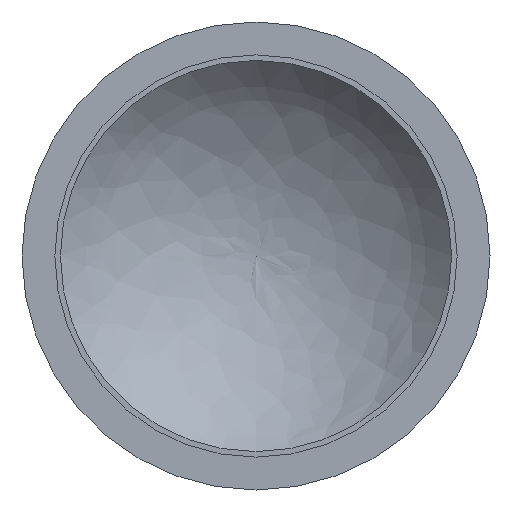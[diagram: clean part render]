
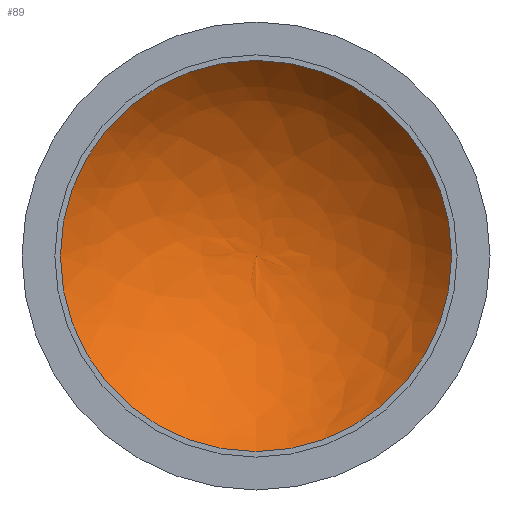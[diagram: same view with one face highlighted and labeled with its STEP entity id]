
A CAD part, front view. The second image highlights one B-rep face of the part: STEP entity #89.
In plain terms, the highlighted free-form (B-spline) face has degree [2, 2] with [3, 9] control points.
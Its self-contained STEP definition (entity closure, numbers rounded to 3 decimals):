
#17=(
BOUNDED_CURVE()
B_SPLINE_CURVE(2,(#175,#176,#177),.UNSPECIFIED.,.F.,.F.)
B_SPLINE_CURVE_WITH_KNOTS((3,3),(-1.542,-0.725),
 .UNSPECIFIED.)
CURVE()
GEOMETRIC_REPRESENTATION_ITEM()
RATIONAL_B_SPLINE_CURVE((1.,0.918,1.))
REPRESENTATION_ITEM('')
);
#18=(
BOUNDED_SURFACE()
B_SPLINE_SURFACE(2,2,((#146,#147,#148,#149,#150,#151,#152,#153,#154),(#155,
#156,#157,#158,#159,#160,#161,#162,#163),(#164,#165,#166,#167,#168,#169,
#170,#171,#172)),.UNSPECIFIED.,.F.,.T.,.F.)
B_SPLINE_SURFACE_WITH_KNOTS((3,3),(3,2,2,2,3),(0.725,1.542),
(-3.142,-1.571,0.,1.571,3.142),
 .UNSPECIFIED.)
GEOMETRIC_REPRESENTATION_ITEM()
RATIONAL_B_SPLINE_SURFACE(((1.,0.707,1.,0.707,1.,
0.707,1.,0.707,1.),(0.918,0.649,
0.918,0.649,0.918,0.649,
0.918,0.649,0.918),(1.,0.707,
1.,0.707,1.,0.707,1.,0.707,1.)))
REPRESENTATION_ITEM('')
SURFACE()
);
#30=FACE_OUTER_BOUND('',#39,.T.);
#39=EDGE_LOOP('',(#74,#75,#76,#77));
#49=CIRCLE('',#101,53.5);
#50=CIRCLE('',#102,53.5);
#56=VERTEX_POINT('',#173);
#57=VERTEX_POINT('',#174);
#58=VERTEX_POINT('',#178);
#64=EDGE_CURVE('',#56,#57,#17,.T.);
#65=EDGE_CURVE('',#58,#57,#49,.T.);
#66=EDGE_CURVE('',#57,#58,#50,.T.);
#74=ORIENTED_EDGE('',*,*,#64,.T.);
#75=ORIENTED_EDGE('',*,*,#65,.F.);
#76=ORIENTED_EDGE('',*,*,#66,.F.);
#77=ORIENTED_EDGE('',*,*,#64,.F.);
#89=ADVANCED_FACE('',(#30),#18,.T.);
#101=AXIS2_PLACEMENT_3D('',#179,#122,#123);
#102=AXIS2_PLACEMENT_3D('',#180,#124,#125);
#122=DIRECTION('center_axis',(0.,1.,0.));
#123=DIRECTION('ref_axis',(1.,0.,0.));
#124=DIRECTION('center_axis',(0.,1.,0.));
#125=DIRECTION('ref_axis',(1.,0.,0.));
#146=CARTESIAN_POINT('Ctrl Pts',(0.,63.,-53.5));
#147=CARTESIAN_POINT('Ctrl Pts',(-53.5,63.,-53.5));
#148=CARTESIAN_POINT('Ctrl Pts',(-53.5,63.,0.));
#149=CARTESIAN_POINT('Ctrl Pts',(-53.5,63.,53.5));
#150=CARTESIAN_POINT('Ctrl Pts',(0.,63.,53.5));
#151=CARTESIAN_POINT('Ctrl Pts',(53.5,63.,53.5));
#152=CARTESIAN_POINT('Ctrl Pts',(53.5,63.,0.));
#153=CARTESIAN_POINT('Ctrl Pts',(53.5,63.,-53.5));
#154=CARTESIAN_POINT('Ctrl Pts',(0.,63.,-53.5));
#155=CARTESIAN_POINT('Ctrl Pts',(0.,87.085,-32.164));
#156=CARTESIAN_POINT('Ctrl Pts',(-32.164,87.085,-32.164));
#157=CARTESIAN_POINT('Ctrl Pts',(-32.164,87.085,0.));
#158=CARTESIAN_POINT('Ctrl Pts',(-32.164,87.085,32.164));
#159=CARTESIAN_POINT('Ctrl Pts',(0.,87.085,32.164));
#160=CARTESIAN_POINT('Ctrl Pts',(32.164,87.085,32.164));
#161=CARTESIAN_POINT('Ctrl Pts',(32.164,87.085,0.));
#162=CARTESIAN_POINT('Ctrl Pts',(32.164,87.085,-32.164));
#163=CARTESIAN_POINT('Ctrl Pts',(0.,87.085,-32.164));
#164=CARTESIAN_POINT('Ctrl Pts',(0.,88.,0.));
#165=CARTESIAN_POINT('Ctrl Pts',(0.,88.,0.));
#166=CARTESIAN_POINT('Ctrl Pts',(0.,88.,0.));
#167=CARTESIAN_POINT('Ctrl Pts',(0.,88.,0.));
#168=CARTESIAN_POINT('Ctrl Pts',(0.,88.,0.));
#169=CARTESIAN_POINT('Ctrl Pts',(0.,88.,0.));
#170=CARTESIAN_POINT('Ctrl Pts',(0.,88.,0.));
#171=CARTESIAN_POINT('Ctrl Pts',(0.,88.,0.));
#172=CARTESIAN_POINT('Ctrl Pts',(0.,88.,0.));
#173=CARTESIAN_POINT('',(0.,88.,0.));
#174=CARTESIAN_POINT('',(0.,63.,-53.5));
#175=CARTESIAN_POINT('Ctrl Pts',(0.,88.,0.));
#176=CARTESIAN_POINT('Ctrl Pts',(0.,87.085,-32.164));
#177=CARTESIAN_POINT('Ctrl Pts',(0.,63.,-53.5));
#178=CARTESIAN_POINT('',(-53.5,63.,0.));
#179=CARTESIAN_POINT('Origin',(0.,63.,0.));
#180=CARTESIAN_POINT('Origin',(0.,63.,0.));
